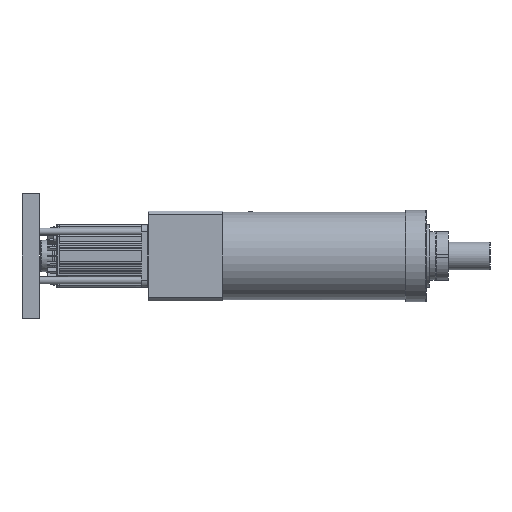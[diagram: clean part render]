
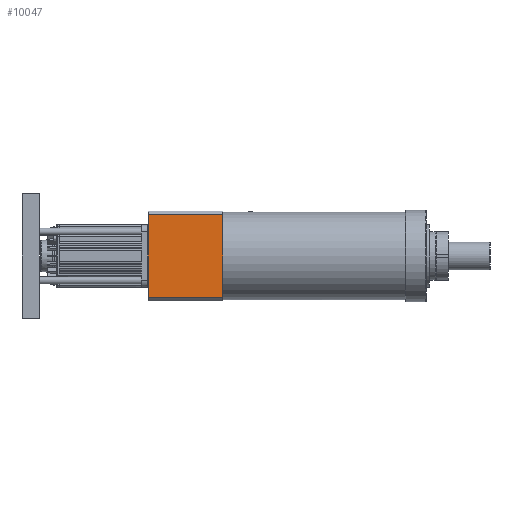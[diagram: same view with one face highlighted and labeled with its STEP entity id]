
A CAD part, front view. The second image highlights one B-rep face of the part: STEP entity #10047.
In plain terms, the highlighted planar face has unit normal (0, -1, 0).
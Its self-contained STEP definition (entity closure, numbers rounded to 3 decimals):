
#68 = EDGE_LOOP ( 'NONE', ( #11735, #18806, #19783, #14241 ) ) ;
#216 = PLANE ( 'NONE',  #15751 ) ;
#251 = VECTOR ( 'NONE', #22115, 1000. ) ;
#410 = VERTEX_POINT ( 'NONE', #5261 ) ;
#1024 = VECTOR ( 'NONE', #5137, 1000. ) ;
#1622 = CARTESIAN_POINT ( 'NONE',  ( -216., -130., -119.769 ) ) ;
#1819 = CARTESIAN_POINT ( 'NONE',  ( -216., -130., -119.769 ) ) ;
#2120 = EDGE_CURVE ( 'NONE', #18772, #410, #22892, .T. ) ;
#2273 = LINE ( 'NONE', #7191, #251 ) ;
#3861 = DIRECTION ( 'NONE',  ( 0., 0., 1. ) ) ;
#5137 = DIRECTION ( 'NONE',  ( 1., 0., 0. ) ) ;
#5223 = DIRECTION ( 'NONE',  ( 0., 0., 1. ) ) ;
#5261 = CARTESIAN_POINT ( 'NONE',  ( -216., -130., 119.769 ) ) ;
#6328 = DIRECTION ( 'NONE',  ( 0., 0., 1. ) ) ;
#7191 = CARTESIAN_POINT ( 'NONE',  ( -216., -130., 119.769 ) ) ;
#8275 = FACE_OUTER_BOUND ( 'NONE', #68, .T. ) ;
#10047 = ADVANCED_FACE ( 'NONE', ( #8275 ), #216, .F. ) ;
#10493 = CARTESIAN_POINT ( 'NONE',  ( -216., -130., -119.769 ) ) ;
#10518 = EDGE_CURVE ( 'NONE', #11476, #13044, #12926, .T. ) ;
#11476 = VERTEX_POINT ( 'NONE', #23978 ) ;
#11735 = ORIENTED_EDGE ( 'NONE', *, *, #10518, .T. ) ;
#12926 = LINE ( 'NONE', #24023, #20521 ) ;
#13044 = VERTEX_POINT ( 'NONE', #22267 ) ;
#13304 = DIRECTION ( 'NONE',  ( 0., 1., 0. ) ) ;
#14241 = ORIENTED_EDGE ( 'NONE', *, *, #20633, .T. ) ;
#14531 = EDGE_CURVE ( 'NONE', #410, #13044, #2273, .T. ) ;
#15751 = AXIS2_PLACEMENT_3D ( 'NONE', #1819, #13304, #3861 ) ;
#17038 = LINE ( 'NONE', #10493, #1024 ) ;
#17357 = VECTOR ( 'NONE', #6328, 1000. ) ;
#18772 = VERTEX_POINT ( 'NONE', #1622 ) ;
#18806 = ORIENTED_EDGE ( 'NONE', *, *, #14531, .F. ) ;
#19783 = ORIENTED_EDGE ( 'NONE', *, *, #2120, .F. ) ;
#20521 = VECTOR ( 'NONE', #5223, 1000. ) ;
#20633 = EDGE_CURVE ( 'NONE', #18772, #11476, #17038, .T. ) ;
#21404 = CARTESIAN_POINT ( 'NONE',  ( -216., -130., -119.769 ) ) ;
#22115 = DIRECTION ( 'NONE',  ( 1., 0., 0. ) ) ;
#22267 = CARTESIAN_POINT ( 'NONE',  ( 0., -130., 119.769 ) ) ;
#22892 = LINE ( 'NONE', #21404, #17357 ) ;
#23978 = CARTESIAN_POINT ( 'NONE',  ( 0., -130., -119.769 ) ) ;
#24023 = CARTESIAN_POINT ( 'NONE',  ( 0., -130., -119.769 ) ) ;
